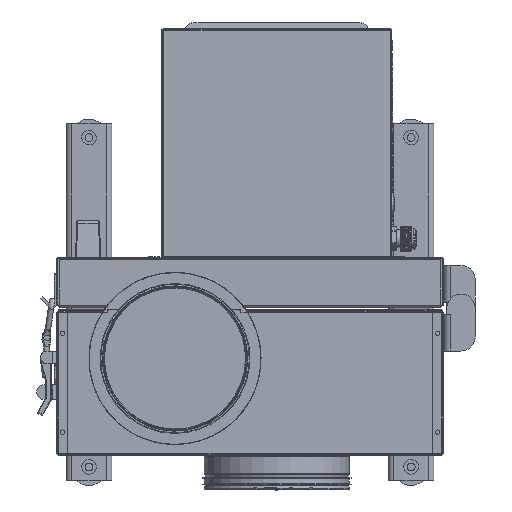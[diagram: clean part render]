
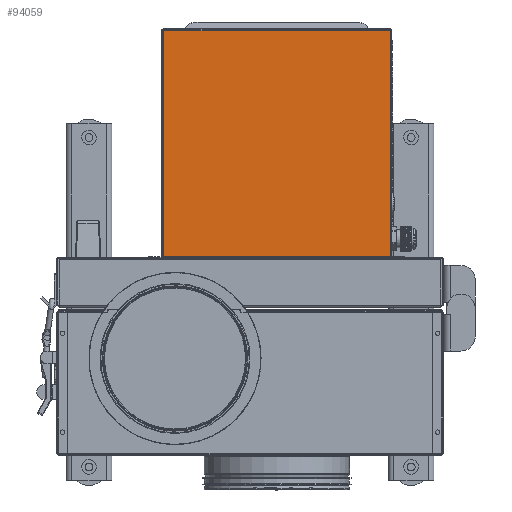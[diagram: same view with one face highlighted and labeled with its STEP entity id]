
A CAD part, left-side view. The second image highlights one B-rep face of the part: STEP entity #94059.
In plain terms, the highlighted planar face has unit normal (-1, 0, 0).
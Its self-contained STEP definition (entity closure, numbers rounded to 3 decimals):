
#7040=FACE_OUTER_BOUND('',#12269,.T.);
#12269=EDGE_LOOP('',(#76231,#76232,#76233,#76234,#76235,#76236));
#20035=LINE('',#156035,#28697);
#20044=LINE('',#156063,#28706);
#20047=LINE('',#156068,#28709);
#20206=LINE('',#158111,#28868);
#20235=LINE('',#159471,#28897);
#20306=LINE('',#159667,#28968);
#28697=VECTOR('',#122271,10.);
#28706=VECTOR('',#122296,10.);
#28709=VECTOR('',#122301,10.);
#28868=VECTOR('',#122722,10.);
#28897=VECTOR('',#122819,10.);
#28968=VECTOR('',#123038,10.);
#40971=VERTEX_POINT('',#156032);
#40972=VERTEX_POINT('',#156034);
#40982=VERTEX_POINT('',#156059);
#40983=VERTEX_POINT('',#156061);
#40984=VERTEX_POINT('',#156066);
#41125=VERTEX_POINT('',#158110);
#53001=EDGE_CURVE('',#40972,#40971,#20035,.T.);
#53015=EDGE_CURVE('',#40982,#40983,#20044,.T.);
#53018=EDGE_CURVE('',#40983,#40984,#20047,.T.);
#53248=EDGE_CURVE('',#41125,#40972,#20206,.T.);
#53289=EDGE_CURVE('',#40984,#41125,#20235,.T.);
#53389=EDGE_CURVE('',#40971,#40982,#20306,.T.);
#76231=ORIENTED_EDGE('',*,*,#53389,.T.);
#76232=ORIENTED_EDGE('',*,*,#53015,.T.);
#76233=ORIENTED_EDGE('',*,*,#53018,.T.);
#76234=ORIENTED_EDGE('',*,*,#53289,.T.);
#76235=ORIENTED_EDGE('',*,*,#53248,.T.);
#76236=ORIENTED_EDGE('',*,*,#53001,.T.);
#85151=PLANE('',#101702);
#94059=ADVANCED_FACE('',(#7040),#85151,.T.);
#101702=AXIS2_PLACEMENT_3D('',#159666,#123036,#123037);
#122271=DIRECTION('',(0.,0.,-1.));
#122296=DIRECTION('',(0.,0.,1.));
#122301=DIRECTION('',(0.,1.,0.));
#122722=DIRECTION('',(0.,1.,0.));
#122819=DIRECTION('',(0.,1.,0.));
#123036=DIRECTION('center_axis',(-1.,0.,0.));
#123037=DIRECTION('ref_axis',(0.,1.,0.));
#123038=DIRECTION('',(0.,-1.,0.));
#156032=CARTESIAN_POINT('',(3.433,306.1,217.3));
#156034=CARTESIAN_POINT('',(3.433,306.1,464.5));
#156035=CARTESIAN_POINT('',(3.433,306.1,403.4));
#156059=CARTESIAN_POINT('',(3.433,57.5,217.3));
#156061=CARTESIAN_POINT('',(3.433,57.5,464.5));
#156063=CARTESIAN_POINT('',(3.433,57.5,278.4));
#156066=CARTESIAN_POINT('',(3.433,58.412,464.5));
#156068=CARTESIAN_POINT('',(3.433,119.65,464.5));
#158110=CARTESIAN_POINT('',(3.433,305.188,464.5));
#158111=CARTESIAN_POINT('',(3.433,119.65,464.5));
#159471=CARTESIAN_POINT('',(3.433,119.65,464.5));
#159666=CARTESIAN_POINT('Origin',(3.433,181.8,340.9));
#159667=CARTESIAN_POINT('',(3.433,243.95,217.3));
